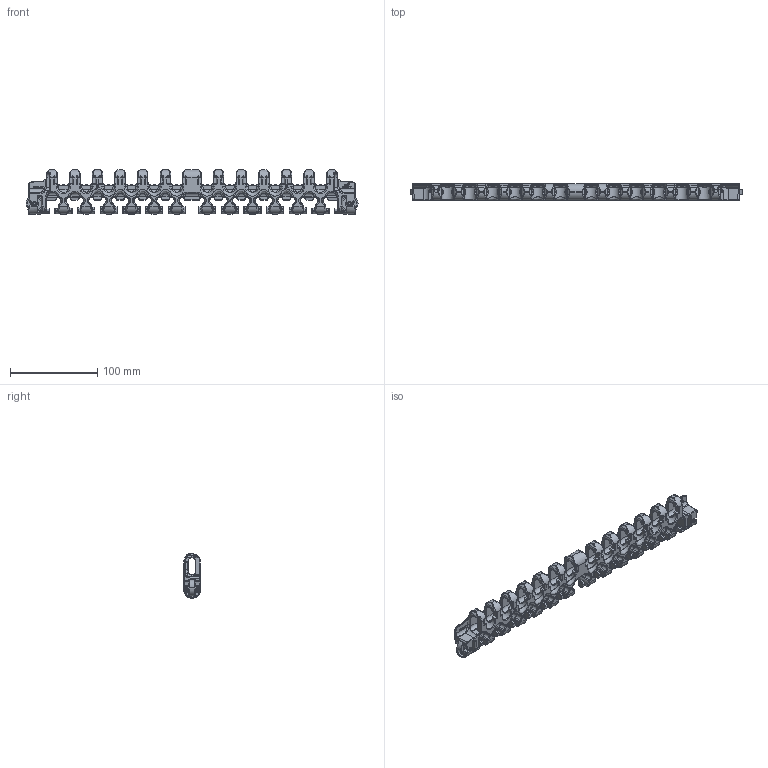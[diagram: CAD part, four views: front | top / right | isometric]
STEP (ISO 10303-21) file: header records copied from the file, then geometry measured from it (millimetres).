
FILE_DESCRIPTION((''),'2;1');
FILE_NAME('FLEX_ONE_WEARPART_ER_K1500_ASM','2011-12-12T',('mth'),(''),'PRO/ENGINEER BY PARAMETRIC TECHNOLOGY CORPORATION, 2010280','PRO/ENGINEER BY PARAMETRIC TECHNOLOGY CORPORATION, 2010280','');
FILE_SCHEMA(('CONFIG_CONTROL_DESIGN','SHAPE_APPEARANCE_LAYERS_GROUPS'));
Products named in the file (5): P976; S129; FLEX_ONE_KUGLELEJE; FLEX_ONE_KUGLELEJE-AKSEL_ASM; FLEX_ONE_WEARPART_ER_K1500_ASM
Assembly tree (5 placements, depth 3):
  FLEX_ONE_WEARPART_ER_K1500_ASM
    P976
    FLEX_ONE_KUGLELEJE-AKSEL_ASM  x2
      S129
      FLEX_ONE_KUGLELEJE
Bounding box: 381 x 19.05 x 51 mm (x, y, z)
Volume: 129813.6 mm3; surface area: 64346 mm2
Topology: 5 solids, 5 shells, 4435 faces, 10850 edges, 6442 vertices
Faces by surface type: cylinder 1461, plane 1110, bspline 1048, torus 738, sphere 66, cone 8, extrusion 4
Entity records: 219422 total; most frequent: CARTESIAN_POINT 121426, ORIENTED_EDGE 21556, DIRECTION 19694, EDGE_CURVE 10778, AXIS2_PLACEMENT_3D 7673, VERTEX_POINT 6398, EDGE_LOOP 4444, FACE_OUTER_BOUND 4399
